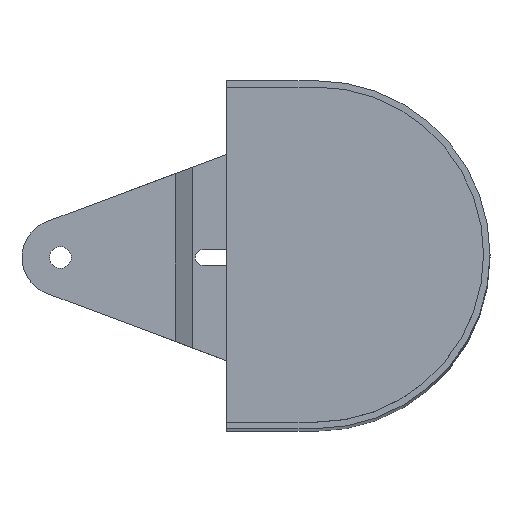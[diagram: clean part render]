
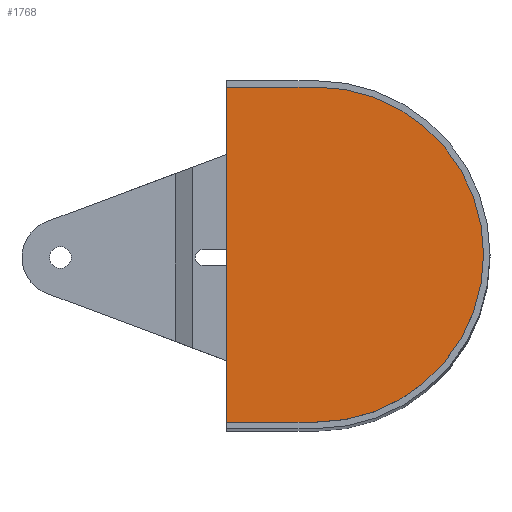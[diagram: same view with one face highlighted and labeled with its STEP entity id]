
A CAD part, top view. The second image highlights one B-rep face of the part: STEP entity #1768.
In plain terms, the highlighted planar face has unit normal (0, 0, 1).
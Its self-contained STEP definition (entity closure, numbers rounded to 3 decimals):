
#10 = CARTESIAN_POINT ( 'NONE',  ( -68., 0., 325.25 ) ) ;
#30 = AXIS2_PLACEMENT_3D ( 'NONE', #10, #1387, #1432 ) ;
#33 = CARTESIAN_POINT ( 'NONE',  ( -103., -65.5, 325.25 ) ) ;
#165 = FACE_OUTER_BOUND ( 'NONE', #440, .T. ) ;
#262 = VECTOR ( 'NONE', #2181, 1000. ) ;
#281 = DIRECTION ( 'NONE',  ( 1., 0., 0. ) ) ;
#300 = ORIENTED_EDGE ( 'NONE', *, *, #817, .T. ) ;
#347 = CIRCLE ( 'NONE', #30, 65.5 ) ;
#432 = VECTOR ( 'NONE', #2008, 1000. ) ;
#440 = EDGE_LOOP ( 'NONE', ( #2148, #300, #2283, #1025 ) ) ;
#470 = DIRECTION ( 'NONE',  ( 0., 0., 1. ) ) ;
#523 = CARTESIAN_POINT ( 'NONE',  ( -103., -65.5, 325.25 ) ) ;
#540 = EDGE_CURVE ( 'NONE', #1549, #2286, #1412, .T. ) ;
#585 = CARTESIAN_POINT ( 'NONE',  ( -103., 65.5, 325.25 ) ) ;
#762 = DIRECTION ( 'NONE',  ( 1., 0., 0. ) ) ;
#817 = EDGE_CURVE ( 'NONE', #2286, #1885, #1847, .T. ) ;
#830 = VECTOR ( 'NONE', #762, 1000. ) ;
#1025 = ORIENTED_EDGE ( 'NONE', *, *, #1654, .T. ) ;
#1110 = LINE ( 'NONE', #33, #830 ) ;
#1324 = CARTESIAN_POINT ( 'NONE',  ( -103., 65.5, 325.25 ) ) ;
#1368 = CARTESIAN_POINT ( 'NONE',  ( -68., -65.5, 325.25 ) ) ;
#1387 = DIRECTION ( 'NONE',  ( 0., 0., 1. ) ) ;
#1412 = LINE ( 'NONE', #2359, #262 ) ;
#1432 = DIRECTION ( 'NONE',  ( 1., 0., 0. ) ) ;
#1549 = VERTEX_POINT ( 'NONE', #1995 ) ;
#1654 = EDGE_CURVE ( 'NONE', #1758, #1549, #347, .T. ) ;
#1758 = VERTEX_POINT ( 'NONE', #1368 ) ;
#1768 = ADVANCED_FACE ( 'NONE', ( #165 ), #2115, .T. ) ;
#1847 = LINE ( 'NONE', #585, #432 ) ;
#1867 = AXIS2_PLACEMENT_3D ( 'NONE', #1920, #470, #281 ) ;
#1885 = VERTEX_POINT ( 'NONE', #523 ) ;
#1920 = CARTESIAN_POINT ( 'NONE',  ( -68., 0., 325.25 ) ) ;
#1995 = CARTESIAN_POINT ( 'NONE',  ( -68., 65.5, 325.25 ) ) ;
#2008 = DIRECTION ( 'NONE',  ( 0., -1., 0. ) ) ;
#2115 = PLANE ( 'NONE',  #1867 ) ;
#2119 = EDGE_CURVE ( 'NONE', #1885, #1758, #1110, .T. ) ;
#2148 = ORIENTED_EDGE ( 'NONE', *, *, #540, .T. ) ;
#2181 = DIRECTION ( 'NONE',  ( -1., 0., 0. ) ) ;
#2283 = ORIENTED_EDGE ( 'NONE', *, *, #2119, .T. ) ;
#2286 = VERTEX_POINT ( 'NONE', #1324 ) ;
#2359 = CARTESIAN_POINT ( 'NONE',  ( -68., 65.5, 325.25 ) ) ;
